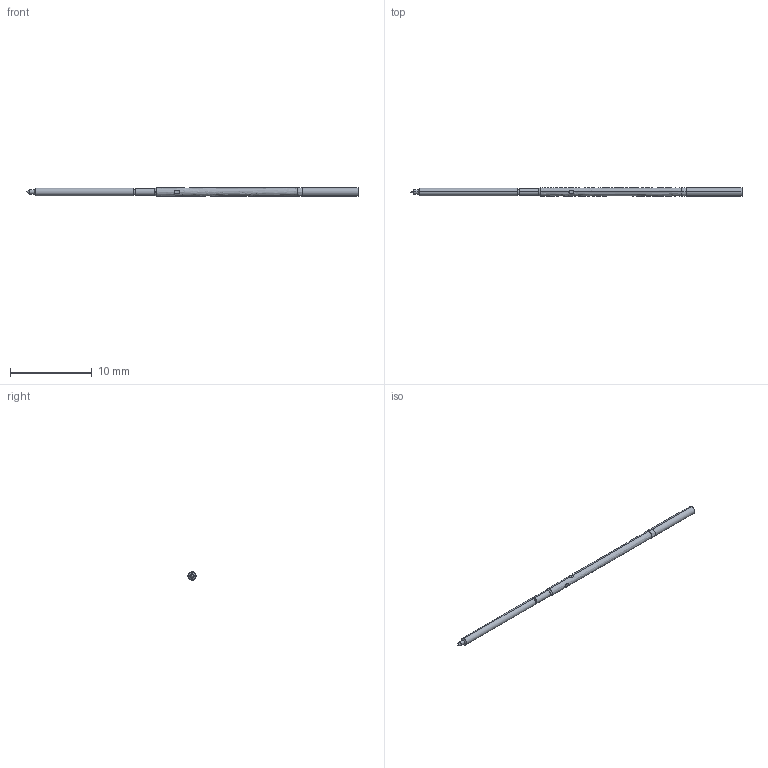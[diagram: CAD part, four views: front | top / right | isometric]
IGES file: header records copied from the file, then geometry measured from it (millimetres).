
Start section: SolidWorks IGES file using analytic representation for surfaces
Global section: file name: Z:\probe solid model mockups\Solidworks models\DER -050 IGS files\DER-050B RECD.IGS; native system: SolidWorks 2006 by SolidWorks Corporation; preprocessor: SolidWorks 2006 by SolidWorks Corporation; author: tsakatani; date: 071218.084405; units: inch
Bounding box: 40.53 x 1.07 x 1.08 mm (x, y, z)
Surface area: 178.2 mm2 (no closed solid volume)
Topology: 0 solids, 0 shells, 38 faces, 346 edges, 344 vertices
Faces by surface type: revolution 31, bspline 7
